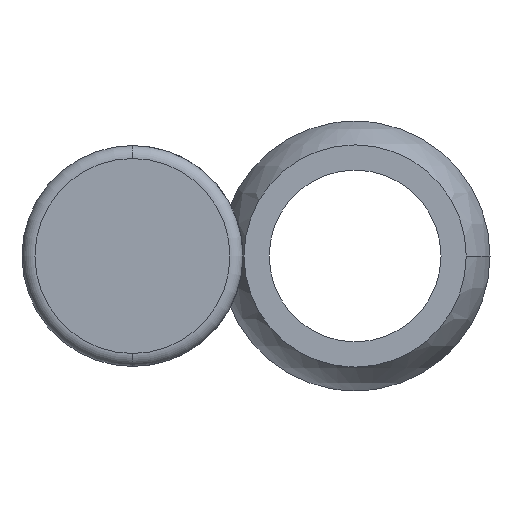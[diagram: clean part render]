
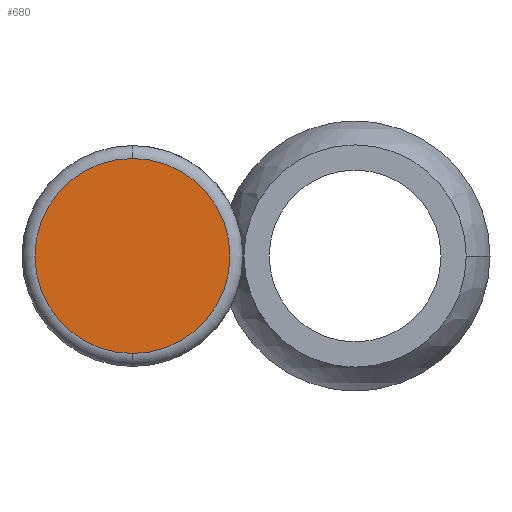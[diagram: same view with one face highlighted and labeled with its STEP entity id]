
A CAD part, front view. The second image highlights one B-rep face of the part: STEP entity #680.
In plain terms, the highlighted planar face has unit normal (0, -1, 0).
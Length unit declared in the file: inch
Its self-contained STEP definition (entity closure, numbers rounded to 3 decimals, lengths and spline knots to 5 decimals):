
#161 = DIRECTION ( 'NONE',  ( 0., -1., 0. ) ) ;
#164 = CARTESIAN_POINT ( 'NONE',  ( 0., -0.945, 0. ) ) ;
#359 = CARTESIAN_POINT ( 'NONE',  ( 0., -0.945, 0. ) ) ;
#438 = DIRECTION ( 'NONE',  ( 0., -1., 0. ) ) ;
#451 = ORIENTED_EDGE ( 'NONE', *, *, #1322, .T. ) ;
#517 = CIRCLE ( 'NONE', #1318, 0.22591 ) ;
#543 = DIRECTION ( 'NONE',  ( 0., 0., 1. ) ) ;
#557 = DIRECTION ( 'NONE',  ( 0., 0., 1. ) ) ;
#616 = VERTEX_POINT ( 'NONE', #979 ) ;
#645 = ORIENTED_EDGE ( 'NONE', *, *, #1266, .T. ) ;
#680 = ADVANCED_FACE ( 'NONE', ( #874 ), #1093, .F. ) ;
#716 = CARTESIAN_POINT ( 'NONE',  ( 0., -0.945, -0.22591 ) ) ;
#717 = AXIS2_PLACEMENT_3D ( 'NONE', #164, #1102, #996 ) ;
#802 = AXIS2_PLACEMENT_3D ( 'NONE', #1200, #161, #557 ) ;
#874 = FACE_OUTER_BOUND ( 'NONE', #932, .T. ) ;
#932 = EDGE_LOOP ( 'NONE', ( #451, #645 ) ) ;
#971 = CIRCLE ( 'NONE', #802, 0.22591 ) ;
#979 = CARTESIAN_POINT ( 'NONE',  ( 0., -0.945, 0.22591 ) ) ;
#996 = DIRECTION ( 'NONE',  ( 0., 0., 1. ) ) ;
#1064 = VERTEX_POINT ( 'NONE', #716 ) ;
#1093 = PLANE ( 'NONE',  #717 ) ;
#1102 = DIRECTION ( 'NONE',  ( 0., 1., 0. ) ) ;
#1200 = CARTESIAN_POINT ( 'NONE',  ( 0., -0.945, 0. ) ) ;
#1266 = EDGE_CURVE ( 'NONE', #1064, #616, #517, .T. ) ;
#1318 = AXIS2_PLACEMENT_3D ( 'NONE', #359, #438, #543 ) ;
#1322 = EDGE_CURVE ( 'NONE', #616, #1064, #971, .T. ) ;
